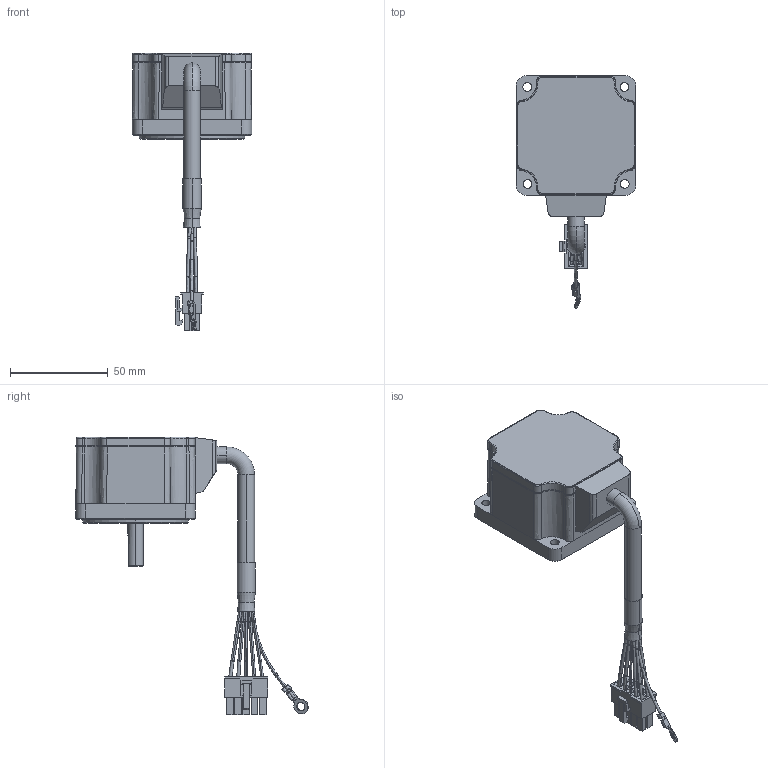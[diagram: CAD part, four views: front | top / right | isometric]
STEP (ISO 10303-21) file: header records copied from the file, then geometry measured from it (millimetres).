
FILE_DESCRIPTION (( 'STEP AP214' ), '1' );
FILE_NAME ('K6BS30N¡à.STEP', '2023-07-27T00:45:12', ( '' ), ( '' ), 'SwSTEP 2.0', 'SolidWorks 2022', '' );
FILE_SCHEMA (( 'AUTOMOTIVE_DESIGN' ));
Length unit declared in the file: millimetre
Products named in the file (1): K6BS30N﹤
Bounding box: 61.1 x 118.7 x 141.85 mm (x, y, z)
Volume: 158224.4 mm3; surface area: 35651.8 mm2
Topology: 4 solids, 13 shells, 801 faces, 2131 edges, 1358 vertices
Faces by surface type: plane 523, cylinder 129, bspline 102, cone 27, torus 20
Entity records: 28082 total; most frequent: CARTESIAN_POINT 7315, ORIENTED_EDGE 4274, DIRECTION 3654, EDGE_CURVE 2137, VECTOR 1494, LINE 1494, VERTEX_POINT 1358, AXIS2_PLACEMENT_3D 1080
